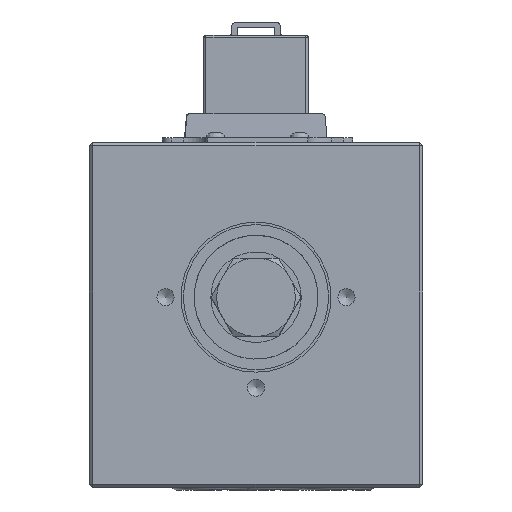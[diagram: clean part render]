
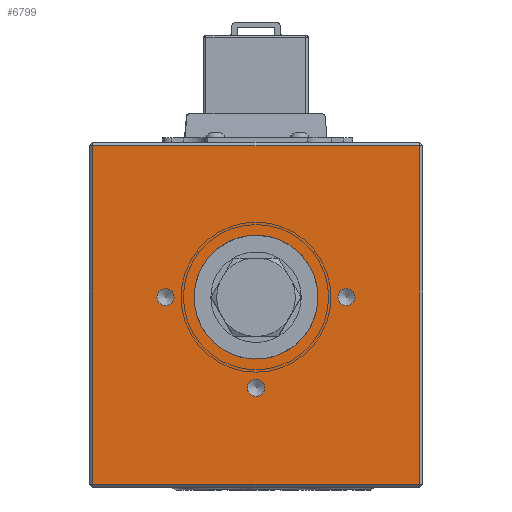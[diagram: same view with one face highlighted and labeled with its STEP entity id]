
A CAD part, left-side view. The second image highlights one B-rep face of the part: STEP entity #6799.
In plain terms, the highlighted planar face has unit normal (-1, 0, 0).
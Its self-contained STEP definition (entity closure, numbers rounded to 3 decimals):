
#3960=LINE('',#33147,#5082);
#3961=LINE('',#33150,#5083);
#3962=LINE('',#33152,#5084);
#3963=LINE('',#33154,#5085);
#5082=VECTOR('',#21280,1.);
#5083=VECTOR('',#21281,1.);
#5084=VECTOR('',#21282,1.);
#5085=VECTOR('',#21283,1.);
#6027=PLANE('',#18523);
#6799=ADVANCED_FACE('',(#8190,#8191,#8192,#8193),#6027,.T.);
#8190=FACE_BOUND('',#9146,.T.);
#8191=FACE_BOUND('',#9147,.T.);
#8192=FACE_BOUND('',#9148,.T.);
#8193=FACE_BOUND('',#9149,.T.);
#9146=EDGE_LOOP('',(#11309));
#9147=EDGE_LOOP('',(#11310));
#9148=EDGE_LOOP('',(#11311));
#9149=EDGE_LOOP('',(#11312,#11313,#11314,#11315));
#11309=ORIENTED_EDGE('',*,*,#15986,.T.);
#11310=ORIENTED_EDGE('',*,*,#15987,.T.);
#11311=ORIENTED_EDGE('',*,*,#15988,.T.);
#11312=ORIENTED_EDGE('',*,*,#15989,.T.);
#11313=ORIENTED_EDGE('',*,*,#15990,.T.);
#11314=ORIENTED_EDGE('',*,*,#15991,.T.);
#11315=ORIENTED_EDGE('',*,*,#15992,.T.);
#14444=VERTEX_POINT('',#33142);
#14445=VERTEX_POINT('',#33144);
#14446=VERTEX_POINT('',#33146);
#14447=VERTEX_POINT('',#33148);
#14448=VERTEX_POINT('',#33149);
#14449=VERTEX_POINT('',#33151);
#14450=VERTEX_POINT('',#33153);
#15986=EDGE_CURVE('',#14444,#14444,#17491,.T.);
#15987=EDGE_CURVE('',#14445,#14445,#17492,.T.);
#15988=EDGE_CURVE('',#14446,#14446,#17493,.T.);
#15989=EDGE_CURVE('',#14447,#14448,#3960,.T.);
#15990=EDGE_CURVE('',#14448,#14449,#3961,.T.);
#15991=EDGE_CURVE('',#14449,#14450,#3962,.T.);
#15992=EDGE_CURVE('',#14450,#14447,#3963,.T.);
#17491=CIRCLE('',#18520,1.8);
#17492=CIRCLE('',#18521,1.8);
#17493=CIRCLE('',#18522,1.8);
#18520=AXIS2_PLACEMENT_3D('',#33141,#21274,#21275);
#18521=AXIS2_PLACEMENT_3D('',#33143,#21276,#21277);
#18522=AXIS2_PLACEMENT_3D('',#33145,#21278,#21279);
#18523=AXIS2_PLACEMENT_3D('',#33155,#21284,#21285);
#21274=DIRECTION('',(1.,0.,0.));
#21275=DIRECTION('',(0.,0.,-1.));
#21276=DIRECTION('',(1.,0.,0.));
#21277=DIRECTION('',(0.,0.,-1.));
#21278=DIRECTION('',(1.,0.,0.));
#21279=DIRECTION('',(0.,0.,-1.));
#21280=DIRECTION('',(0.,0.,1.));
#21281=DIRECTION('',(0.,1.,0.));
#21282=DIRECTION('',(0.,0.,-1.));
#21283=DIRECTION('',(0.,-1.,0.));
#21284=DIRECTION('',(-1.,0.,0.));
#21285=DIRECTION('',(0.,0.,-1.));
#33141=CARTESIAN_POINT('',(0.,54.,-32.5));
#33142=CARTESIAN_POINT('',(0.,54.,-34.3));
#33143=CARTESIAN_POINT('',(0.,35.,-51.5));
#33144=CARTESIAN_POINT('',(0.,35.,-53.3));
#33145=CARTESIAN_POINT('',(0.,16.,-32.5));
#33146=CARTESIAN_POINT('',(0.,16.,-34.3));
#33147=CARTESIAN_POINT('',(0.,0.7,-72.5));
#33148=CARTESIAN_POINT('',(0.,0.7,-71.8));
#33149=CARTESIAN_POINT('',(0.,0.7,-0.7));
#33150=CARTESIAN_POINT('',(0.,70.,-0.7));
#33151=CARTESIAN_POINT('',(0.,69.3,-0.7));
#33152=CARTESIAN_POINT('',(0.,69.3,-72.5));
#33153=CARTESIAN_POINT('',(0.,69.3,-71.8));
#33154=CARTESIAN_POINT('',(0.,0.,-71.8));
#33155=CARTESIAN_POINT('',(0.,70.,-72.5));
